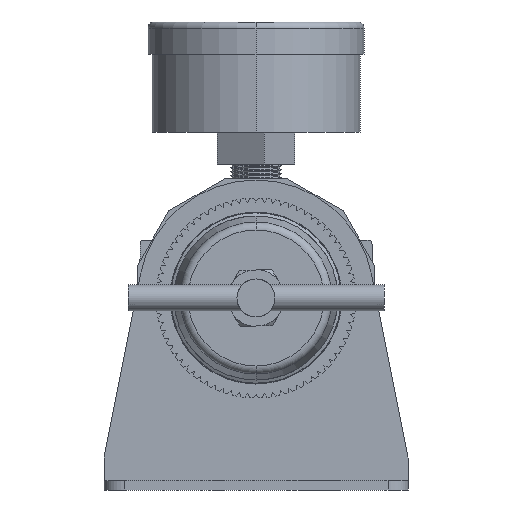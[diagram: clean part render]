
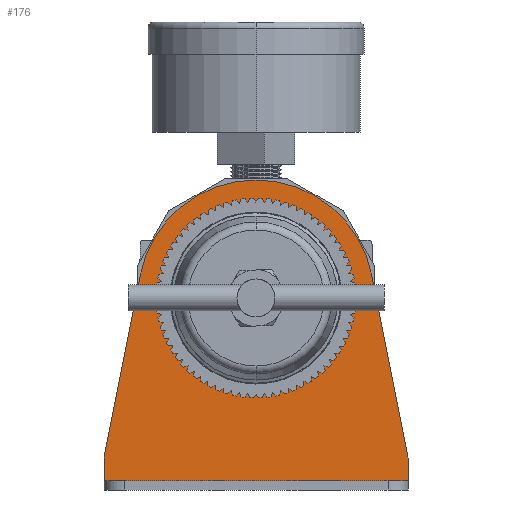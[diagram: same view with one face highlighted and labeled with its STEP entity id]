
A CAD part, front view. The second image highlights one B-rep face of the part: STEP entity #176.
In plain terms, the highlighted planar face has unit normal (0, -1, 0) as drawn and (0, 1, 0) by its records, which use the part's own axes.
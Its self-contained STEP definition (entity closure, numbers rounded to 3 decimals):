
#176 = ADVANCED_FACE ( 'NONE', ( #21659, #15151 ), #29027, .T. ) ;
#725 = DIRECTION ( 'NONE',  ( 0., 1., 0. ) ) ;
#1157 = VERTEX_POINT ( 'NONE', #30549 ) ;
#1343 = CIRCLE ( 'NONE', #12256, 29.5 ) ;
#1639 = EDGE_CURVE ( 'NONE', #18635, #3375, #1343, .T. ) ;
#2255 = ORIENTED_EDGE ( 'NONE', *, *, #30101, .T. ) ;
#2686 = ORIENTED_EDGE ( 'NONE', *, *, #14348, .F. ) ;
#3375 = VERTEX_POINT ( 'NONE', #18371 ) ;
#3782 = CARTESIAN_POINT ( 'NONE',  ( 38., 2.3, -45.7 ) ) ;
#4192 = CARTESIAN_POINT ( 'NONE',  ( 38., 2.3, -40. ) ) ;
#5223 = ORIENTED_EDGE ( 'NONE', *, *, #1639, .T. ) ;
#5754 = EDGE_LOOP ( 'NONE', ( #25564, #2686 ) ) ;
#5990 = DIRECTION ( 'NONE',  ( 0., 0., 1. ) ) ;
#7047 = VERTEX_POINT ( 'NONE', #3782 ) ;
#7499 = DIRECTION ( 'NONE',  ( 0.194, 0., -0.981 ) ) ;
#8016 = CARTESIAN_POINT ( 'NONE',  ( 0., 2.3, 0. ) ) ;
#9408 = CARTESIAN_POINT ( 'NONE',  ( -38., 2.3, -40. ) ) ;
#9674 = CARTESIAN_POINT ( 'NONE',  ( 0., 2.3, 0. ) ) ;
#9820 = ORIENTED_EDGE ( 'NONE', *, *, #15376, .T. ) ;
#10201 = EDGE_CURVE ( 'NONE', #1157, #7047, #22541, .T. ) ;
#10389 = EDGE_CURVE ( 'NONE', #1157, #24892, #20281, .T. ) ;
#10456 = DIRECTION ( 'NONE',  ( 0., 0., 1. ) ) ;
#10944 = CARTESIAN_POINT ( 'NONE',  ( 0., 2.3, 0. ) ) ;
#11118 = VECTOR ( 'NONE', #16608, 1000. ) ;
#12256 = AXIS2_PLACEMENT_3D ( 'NONE', #13218, #27905, #5990 ) ;
#12494 = VERTEX_POINT ( 'NONE', #4192 ) ;
#13218 = CARTESIAN_POINT ( 'NONE',  ( 0., 2.3, 0. ) ) ;
#13397 = EDGE_CURVE ( 'NONE', #24892, #18635, #18990, .T. ) ;
#13488 = AXIS2_PLACEMENT_3D ( 'NONE', #9674, #16916, #21826 ) ;
#14099 = CARTESIAN_POINT ( 'NONE',  ( 0., 2.3, 24. ) ) ;
#14348 = EDGE_CURVE ( 'NONE', #31509, #28642, #21208, .T. ) ;
#14717 = EDGE_CURVE ( 'NONE', #28642, #31509, #20060, .T. ) ;
#15151 = FACE_OUTER_BOUND ( 'NONE', #23079, .T. ) ;
#15376 = EDGE_CURVE ( 'NONE', #12494, #7047, #22287, .T. ) ;
#15393 = AXIS2_PLACEMENT_3D ( 'NONE', #10944, #27972, #30414 ) ;
#16608 = DIRECTION ( 'NONE',  ( 0., 0., 1. ) ) ;
#16916 = DIRECTION ( 'NONE',  ( 0., 1., 0. ) ) ;
#17183 = CARTESIAN_POINT ( 'NONE',  ( 38., 2.3, -40. ) ) ;
#18059 = CARTESIAN_POINT ( 'NONE',  ( -28.937, 2.3, 5.734 ) ) ;
#18223 = VECTOR ( 'NONE', #19138, 1000. ) ;
#18371 = CARTESIAN_POINT ( 'NONE',  ( 28.937, 2.3, 5.734 ) ) ;
#18635 = VERTEX_POINT ( 'NONE', #18059 ) ;
#18990 = LINE ( 'NONE', #9408, #18223 ) ;
#19072 = DIRECTION ( 'NONE',  ( 0., 0., -1. ) ) ;
#19138 = DIRECTION ( 'NONE',  ( 0.194, 0., 0.981 ) ) ;
#19500 = ORIENTED_EDGE ( 'NONE', *, *, #13397, .T. ) ;
#19758 = CARTESIAN_POINT ( 'NONE',  ( -38., 2.3, -40. ) ) ;
#20060 = CIRCLE ( 'NONE', #26830, 24. ) ;
#20281 = LINE ( 'NONE', #21719, #11118 ) ;
#20641 = CARTESIAN_POINT ( 'NONE',  ( 0., 2.3, -24. ) ) ;
#21208 = CIRCLE ( 'NONE', #15393, 24. ) ;
#21409 = CARTESIAN_POINT ( 'NONE',  ( 38., 2.3, -48. ) ) ;
#21659 = FACE_BOUND ( 'NONE', #5754, .T. ) ;
#21719 = CARTESIAN_POINT ( 'NONE',  ( -38., 2.3, -48. ) ) ;
#21826 = DIRECTION ( 'NONE',  ( 0., 0., 1. ) ) ;
#22287 = LINE ( 'NONE', #21409, #25335 ) ;
#22303 = ORIENTED_EDGE ( 'NONE', *, *, #10201, .F. ) ;
#22541 = LINE ( 'NONE', #30433, #23653 ) ;
#22997 = DIRECTION ( 'NONE',  ( 1., 0., 0. ) ) ;
#23079 = EDGE_LOOP ( 'NONE', ( #22303, #29619, #19500, #5223, #2255, #9820 ) ) ;
#23653 = VECTOR ( 'NONE', #22997, 1000. ) ;
#24892 = VERTEX_POINT ( 'NONE', #19758 ) ;
#25335 = VECTOR ( 'NONE', #19072, 1000. ) ;
#25564 = ORIENTED_EDGE ( 'NONE', *, *, #14717, .F. ) ;
#26830 = AXIS2_PLACEMENT_3D ( 'NONE', #8016, #725, #10456 ) ;
#27905 = DIRECTION ( 'NONE',  ( 0., 1., 0. ) ) ;
#27972 = DIRECTION ( 'NONE',  ( 0., 1., 0. ) ) ;
#28642 = VERTEX_POINT ( 'NONE', #14099 ) ;
#29027 = PLANE ( 'NONE',  #13488 ) ;
#29248 = LINE ( 'NONE', #17183, #30792 ) ;
#29619 = ORIENTED_EDGE ( 'NONE', *, *, #10389, .T. ) ;
#30101 = EDGE_CURVE ( 'NONE', #3375, #12494, #29248, .T. ) ;
#30414 = DIRECTION ( 'NONE',  ( 0., 0., 1. ) ) ;
#30433 = CARTESIAN_POINT ( 'NONE',  ( 0., 2.3, -45.7 ) ) ;
#30549 = CARTESIAN_POINT ( 'NONE',  ( -38., 2.3, -45.7 ) ) ;
#30792 = VECTOR ( 'NONE', #7499, 1000. ) ;
#31509 = VERTEX_POINT ( 'NONE', #20641 ) ;
